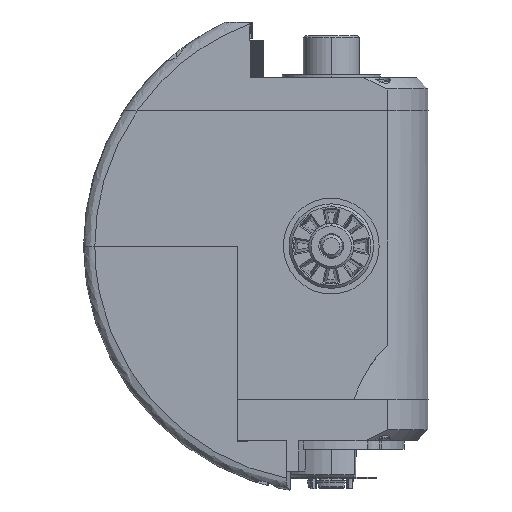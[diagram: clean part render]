
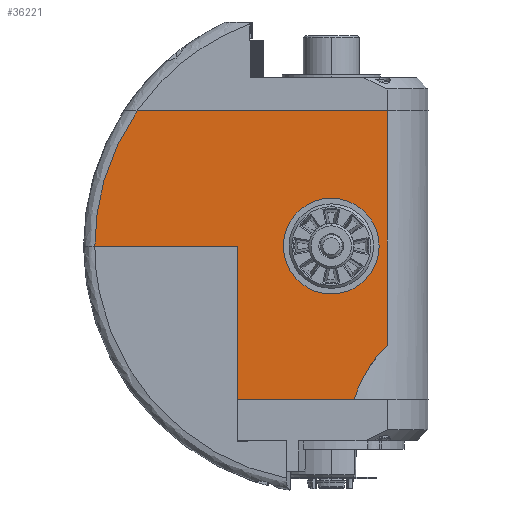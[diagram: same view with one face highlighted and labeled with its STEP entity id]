
A CAD part, left-side view. The second image highlights one B-rep face of the part: STEP entity #36221.
In plain terms, the highlighted planar face has unit normal (-1, 0, 0).
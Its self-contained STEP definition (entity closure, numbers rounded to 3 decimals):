
#86 = DIRECTION ( 'NONE',  ( 0., 0., -1. ) ) ;
#464 = CARTESIAN_POINT ( 'NONE',  ( -14.1, 38.801, 75.756 ) ) ;
#1125 = CARTESIAN_POINT ( 'NONE',  ( -14.1, 39.3, 69.3 ) ) ;
#1987 = EDGE_CURVE ( 'NONE', #10544, #14627, #18342, .T. ) ;
#4779 = CARTESIAN_POINT ( 'NONE',  ( -14.1, -12.667, 93.3 ) ) ;
#5349 = CARTESIAN_POINT ( 'NONE',  ( -14.1, 38.78, 75.89 ) ) ;
#5991 = CARTESIAN_POINT ( 'NONE',  ( -14.1, 38.503, 77.473 ) ) ;
#6321 = CARTESIAN_POINT ( 'NONE',  ( -14.1, 39.3, 71.421 ) ) ;
#7263 = CIRCLE ( 'NONE', #59979, 8.5 ) ;
#7376 = DIRECTION ( 'NONE',  ( 0., -1., 0. ) ) ;
#7399 = DIRECTION ( 'NONE',  ( 0., 1., 0. ) ) ;
#9070 = CARTESIAN_POINT ( 'NONE',  ( -14.1, 31.767, 93.3 ) ) ;
#9155 = CARTESIAN_POINT ( 'NONE',  ( -14.1, 13.961, 42. ) ) ;
#9364 = EDGE_LOOP ( 'NONE', ( #12628, #27435 ) ) ;
#9579 = CARTESIAN_POINT ( 'NONE',  ( -14.1, 31.767, 93.3 ) ) ;
#9691 = DIRECTION ( 'NONE',  ( -1., 0., 0. ) ) ;
#9884 = VECTOR ( 'NONE', #49580, 1000. ) ;
#9975 = DIRECTION ( 'NONE',  ( 0., 1., 0. ) ) ;
#10169 = CARTESIAN_POINT ( 'NONE',  ( -14.1, 13.961, 93.3 ) ) ;
#10360 = CARTESIAN_POINT ( 'NONE',  ( -14.1, 5.8, 69.3 ) ) ;
#10544 = VERTEX_POINT ( 'NONE', #9070 ) ;
#11279 = DIRECTION ( 'NONE',  ( 1., 0., 0. ) ) ;
#12066 = ORIENTED_EDGE ( 'NONE', *, *, #42521, .T. ) ;
#12235 = LINE ( 'NONE', #51741, #25324 ) ;
#12628 = ORIENTED_EDGE ( 'NONE', *, *, #56029, .T. ) ;
#14074 = FACE_BOUND ( 'NONE', #9364, .T. ) ;
#14394 = CARTESIAN_POINT ( 'NONE',  ( -14.1, -12.667, 93.3 ) ) ;
#14627 = VERTEX_POINT ( 'NONE', #34292 ) ;
#14735 = EDGE_CURVE ( 'NONE', #45074, #52609, #7263, .T. ) ;
#16145 = CARTESIAN_POINT ( 'NONE',  ( -14.1, -2.7, 69.3 ) ) ;
#17140 = EDGE_LOOP ( 'NONE', ( #59160, #59049, #12066, #22096, #42950, #38063, #35304 ) ) ;
#17444 = DIRECTION ( 'NONE',  ( 1., 0., 0. ) ) ;
#17619 = VERTEX_POINT ( 'NONE', #36715 ) ;
#18342 = B_SPLINE_CURVE_WITH_KNOTS ( 'NONE', 3,
 ( #9579, #29330, #19316, #39060, #49076, #24489, #60060, #25436, #40622, #39366, #59400, #40321, #5991, #45172, #25109, #5349, #464, #25759, #6321, #1125 ),
 .UNSPECIFIED., .F., .F.,
 ( 4, 1, 1, 1, 2, 2, 2, 1, 1, 1, 2, 2, 4 ),
 ( 0., 0.125, 0.187, 0.219, 0.234, 0.25, 0.5, 0.625, 0.688, 0.719, 0.734, 0.75, 1. ),
 .UNSPECIFIED. ) ;
#19030 = EDGE_CURVE ( 'NONE', #25502, #10544, #50099, .T. ) ;
#19143 = CARTESIAN_POINT ( 'NONE',  ( -14.1, -12.667, 12.87 ) ) ;
#19316 = CARTESIAN_POINT ( 'NONE',  ( -14.1, 33.23, 91.094 ) ) ;
#22096 = ORIENTED_EDGE ( 'NONE', *, *, #36369, .T. ) ;
#23972 = CARTESIAN_POINT ( 'NONE',  ( -14.1, -28.665, 35.339 ) ) ;
#24095 = FACE_OUTER_BOUND ( 'NONE', #17140, .T. ) ;
#24489 = CARTESIAN_POINT ( 'NONE',  ( -14.1, 34.752, 88.309 ) ) ;
#24657 = LINE ( 'NONE', #29839, #9884 ) ;
#24784 = VECTOR ( 'NONE', #86, 1000. ) ;
#25109 = CARTESIAN_POINT ( 'NONE',  ( -14.1, 38.737, 76.155 ) ) ;
#25324 = VECTOR ( 'NONE', #7376, 1000. ) ;
#25436 = CARTESIAN_POINT ( 'NONE',  ( -14.1, 34.93, 87.956 ) ) ;
#25502 = VERTEX_POINT ( 'NONE', #40274 ) ;
#25698 = LINE ( 'NONE', #10169, #24784 ) ;
#25759 = CARTESIAN_POINT ( 'NONE',  ( -14.1, 39.14, 73.529 ) ) ;
#25831 = VERTEX_POINT ( 'NONE', #9155 ) ;
#27435 = ORIENTED_EDGE ( 'NONE', *, *, #14735, .T. ) ;
#28968 = DIRECTION ( 'NONE',  ( -1., 0., 0. ) ) ;
#29330 = CARTESIAN_POINT ( 'NONE',  ( -14.1, 32.373, 92.43 ) ) ;
#29839 = CARTESIAN_POINT ( 'NONE',  ( -14.1, -12.667, 42. ) ) ;
#30592 = VECTOR ( 'NONE', #9975, 1000. ) ;
#30602 = CIRCLE ( 'NONE', #31672, 8.5 ) ;
#31672 = AXIS2_PLACEMENT_3D ( 'NONE', #32658, #17444, #7399 ) ;
#32658 = CARTESIAN_POINT ( 'NONE',  ( -14.1, -2.7, 69.3 ) ) ;
#33450 = VERTEX_POINT ( 'NONE', #57041 ) ;
#34292 = CARTESIAN_POINT ( 'NONE',  ( -14.1, 39.3, 69.3 ) ) ;
#34319 = DIRECTION ( 'NONE',  ( 0., 1., 0. ) ) ;
#35304 = ORIENTED_EDGE ( 'NONE', *, *, #41740, .F. ) ;
#35868 = AXIS2_PLACEMENT_3D ( 'NONE', #23972, #9691, #34319 ) ;
#36221 = ADVANCED_FACE ( 'NONE', ( #24095, #14074 ), #43827, .T. ) ;
#36369 = EDGE_CURVE ( 'NONE', #17619, #25831, #25698, .T. ) ;
#36715 = CARTESIAN_POINT ( 'NONE',  ( -14.1, 13.961, 69.3 ) ) ;
#38063 = ORIENTED_EDGE ( 'NONE', *, *, #50259, .F. ) ;
#39060 = CARTESIAN_POINT ( 'NONE',  ( -14.1, 34.14, 89.483 ) ) ;
#39251 = AXIS2_PLACEMENT_3D ( 'NONE', #14394, #28968, #48397 ) ;
#39366 = CARTESIAN_POINT ( 'NONE',  ( -14.1, 36.73, 83.924 ) ) ;
#40274 = CARTESIAN_POINT ( 'NONE',  ( -14.1, -12.667, 93.3 ) ) ;
#40321 = CARTESIAN_POINT ( 'NONE',  ( -14.1, 38.116, 79.305 ) ) ;
#40622 = CARTESIAN_POINT ( 'NONE',  ( -14.1, 35.935, 85.911 ) ) ;
#41740 = EDGE_CURVE ( 'NONE', #25502, #33450, #48919, .T. ) ;
#42521 = EDGE_CURVE ( 'NONE', #14627, #17619, #12235, .T. ) ;
#42950 = ORIENTED_EDGE ( 'NONE', *, *, #43180, .T. ) ;
#43180 = EDGE_CURVE ( 'NONE', #25831, #52494, #24657, .T. ) ;
#43827 = PLANE ( 'NONE',  #39251 ) ;
#45074 = VERTEX_POINT ( 'NONE', #56781 ) ;
#45172 = CARTESIAN_POINT ( 'NONE',  ( -14.1, 38.671, 76.551 ) ) ;
#48397 = DIRECTION ( 'NONE',  ( 0., -1., 0. ) ) ;
#48919 = LINE ( 'NONE', #19143, #54190 ) ;
#49076 = CARTESIAN_POINT ( 'NONE',  ( -14.1, 34.572, 88.663 ) ) ;
#49580 = DIRECTION ( 'NONE',  ( 0., -1., 0. ) ) ;
#50099 = LINE ( 'NONE', #4779, #30592 ) ;
#50259 = EDGE_CURVE ( 'NONE', #33450, #52494, #63751, .T. ) ;
#51741 = CARTESIAN_POINT ( 'NONE',  ( -14.1, -12.667, 69.3 ) ) ;
#52494 = VERTEX_POINT ( 'NONE', #54387 ) ;
#52609 = VERTEX_POINT ( 'NONE', #10360 ) ;
#54190 = VECTOR ( 'NONE', #55033, 1000. ) ;
#54387 = CARTESIAN_POINT ( 'NONE',  ( -14.1, -6.756, 42. ) ) ;
#55033 = DIRECTION ( 'NONE',  ( 0., 0., -1. ) ) ;
#56029 = EDGE_CURVE ( 'NONE', #52609, #45074, #30602, .T. ) ;
#56781 = CARTESIAN_POINT ( 'NONE',  ( -14.1, -11.2, 69.3 ) ) ;
#57041 = CARTESIAN_POINT ( 'NONE',  ( -14.1, -12.667, 51.723 ) ) ;
#59049 = ORIENTED_EDGE ( 'NONE', *, *, #1987, .T. ) ;
#59160 = ORIENTED_EDGE ( 'NONE', *, *, #19030, .T. ) ;
#59400 = CARTESIAN_POINT ( 'NONE',  ( -14.1, 37.694, 80.854 ) ) ;
#59979 = AXIS2_PLACEMENT_3D ( 'NONE', #16145, #11279, #60460 ) ;
#60060 = CARTESIAN_POINT ( 'NONE',  ( -14.1, 34.871, 88.073 ) ) ;
#60460 = DIRECTION ( 'NONE',  ( 0., 1., 0. ) ) ;
#63751 = CIRCLE ( 'NONE', #35868, 22.9 ) ;
